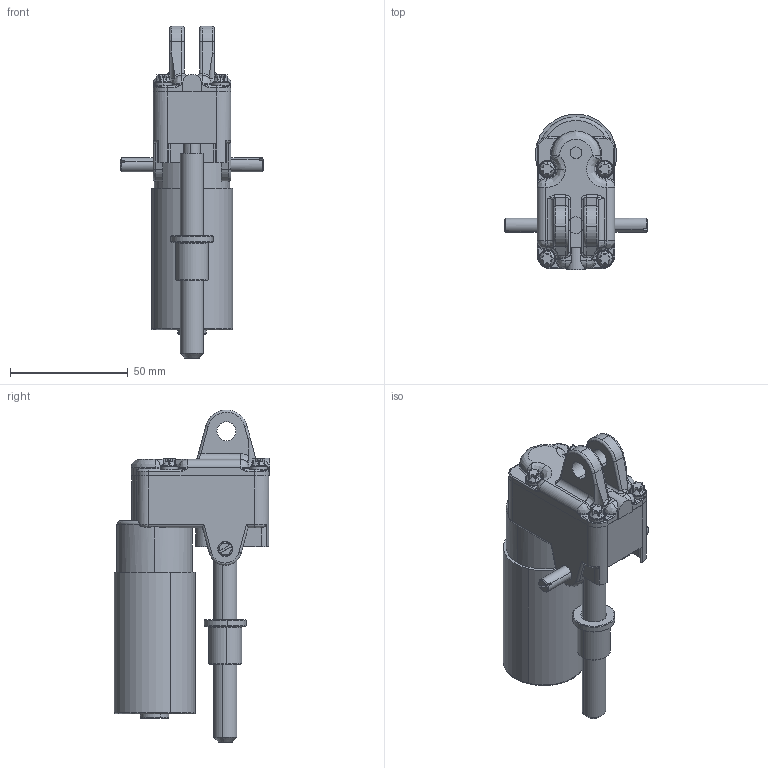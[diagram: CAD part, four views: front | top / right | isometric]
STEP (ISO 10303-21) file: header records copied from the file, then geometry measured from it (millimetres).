
FILE_DESCRIPTION (( 'STEP AP203' ), '1' );
FILE_NAME ('120 S.STEP', '2009-02-02T06:53:02', ( 'PC' ), ( 'PC' ), 'SwSTEP 2.0', 'SolidWorks 2007', '' );
FILE_SCHEMA (( 'CONFIG_CONTROL_DESIGN' ));
Length unit declared in the file: millimetre
Products named in the file (8): 120 Motor_Standard_Standard; Gewindestift_Standard_Standard; Schubstangenmutter_Standard_Standard; 120 S; Spindel_Standard_Standard; Deckel 120-40_Standard_Standard; Gehäuse 120-40_Standard_Standard; Schraube_Standard_Standard
Assembly tree (11 placements, depth 2):
  120 S
    Gewindestift_Standard_Standard  x2
    Schraube_Standard_Standard  x4
    Spindel_Standard_Standard
    Gehäuse 120-40_Standard_Standard
    Deckel 120-40_Standard_Standard
    Schubstangenmutter_Standard_Standard
    120 Motor_Standard_Standard
Bounding box: 61 x 66.23 x 141 mm (x, y, z)
Volume: 109561.6 mm3; surface area: 41003.6 mm2
Topology: 11 solids, 11 shells, 823 faces, 1970 edges, 1161 vertices
Faces by surface type: cylinder 351, bspline 234, plane 191, cone 47
Entity records: 30230 total; most frequent: CARTESIAN_POINT 16781, ORIENTED_EDGE 2694, DIRECTION 2547, EDGE_CURVE 1347, AXIS2_PLACEMENT_3D 1003, VERTEX_POINT 810, EDGE_LOOP 615, ADVANCED_FACE 571
